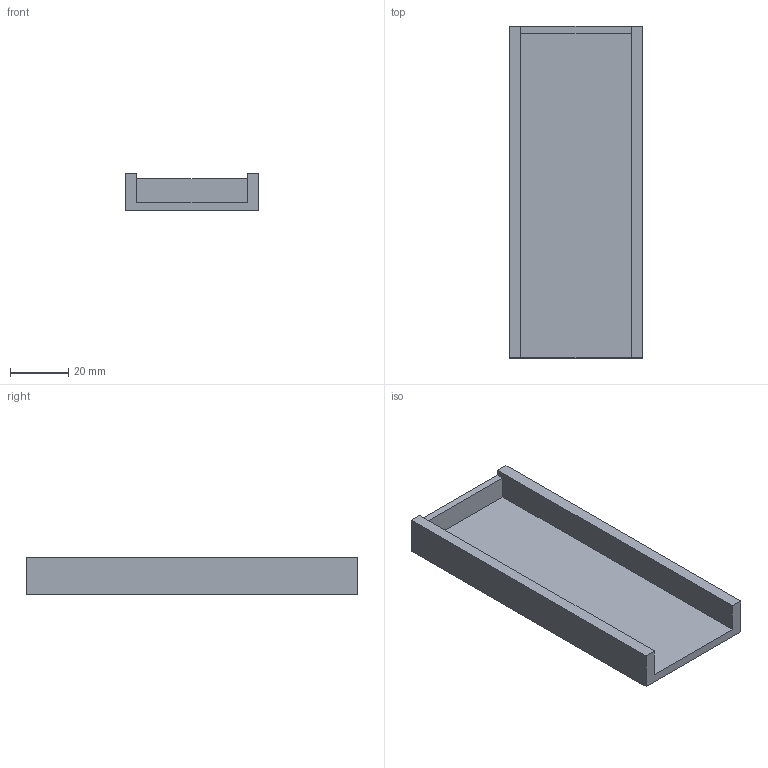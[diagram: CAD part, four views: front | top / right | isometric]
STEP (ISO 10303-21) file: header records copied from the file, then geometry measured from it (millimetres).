
FILE_DESCRIPTION(('Open CASCADE Model'),'2;1');
FILE_NAME('Open CASCADE Shape Model','2026-11-24T19:57:39',('Author'),( 'Open CASCADE'),'Open CASCADE STEP processor 7.8','Open CASCADE 7.8' ,'Unknown');
FILE_SCHEMA(('AUTOMOTIVE_DESIGN { 1 0 10303 214 1 1 1 1 }'));
Length unit declared in the file: millimetre
Products named in the file (1): Open CASCADE STEP translator 7.8 79
Bounding box: 46 x 114 x 13 mm (x, y, z)
Volume: 24460 mm3; surface area: 18032 mm2
Topology: 1 solids, 5 shells, 36 faces, 78 edges, 52 vertices
Faces by surface type: plane 36
Entity records: 1978 total; most frequent: CARTESIAN_POINT 323, DIRECTION 308, LINE 234, VECTOR 234, ORIENTED_EDGE 156, PCURVE 156, DEFINITIONAL_REPRESENTATION 156, EDGE_CURVE 78
